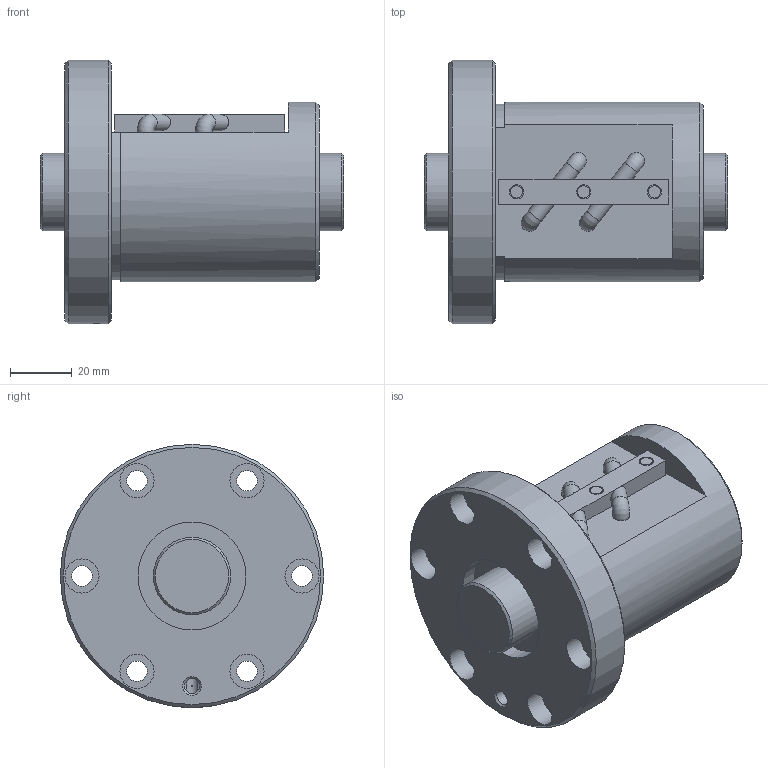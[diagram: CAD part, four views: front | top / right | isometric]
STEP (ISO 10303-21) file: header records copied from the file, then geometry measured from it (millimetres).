
FILE_DESCRIPTION(/* description */ ('STEP AP203'),/* implementation_level */ '2;1');
FILE_NAME(/* name */ 'BIF2508V-5RRG0+98LC0_000',/* time_stamp */ '2024-07-15T08:17:47+02:00',/* author */ ('License CC BY-ND 4.0'),/* organization */ ('CADENAS'),/* preprocessor_version */ 'ST-DEVELOPER v19.3',/* originating_system */ 'PARTsolutions',/* authorisation */ ' ');
FILE_SCHEMA (('CONFIG_CONTROL_DESIGN'));
Length unit declared in the file: millimetre
Products named in the file (3): BIF2508V-5RRG0+98LC0_000; BIF2508V-5RR000 Shaft; BIF2508V-5RR Nut
Assembly tree (2 placements, depth 2):
  BIF2508V-5RRG0+98LC0_000
    BIF2508V-5RR000 Shaft
    BIF2508V-5RR Nut
Bounding box: 98 x 85 x 85 mm (x, y, z)
Volume: 245545 mm3; surface area: 45807.3 mm2
Topology: 2 solids, 2 shells, 90 faces, 201 edges, 128 vertices
Faces by surface type: plane 41, cylinder 36, cone 9, torus 4
Full cylindrical faces by diameter (mm): 4 x3, 4.25 x2, 4.6 x3, 4.917 x1, 5.4 x4, 6.6 x6, 11 x6, 25 x2, 34.8 x2, 58 x1, 85 x1
Entity records: 2420 total; most frequent: CARTESIAN_POINT 470, DIRECTION 424, ORIENTED_EDGE 294, AXIS2_PLACEMENT_3D 195, FACE_BOUND 169, EDGE_LOOP 168, EDGE_CURVE 147, VERTEX_POINT 116
